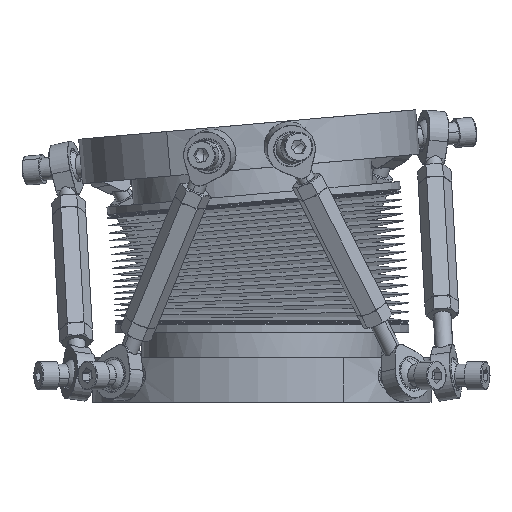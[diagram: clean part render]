
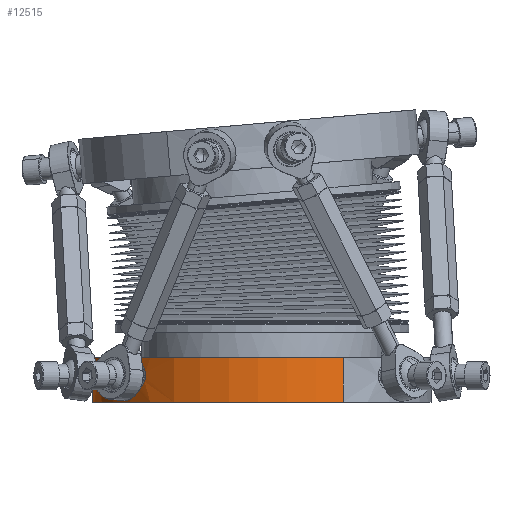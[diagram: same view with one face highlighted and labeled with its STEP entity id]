
A CAD part, left-side view. The second image highlights one B-rep face of the part: STEP entity #12515.
In plain terms, the highlighted cylindrical face has radius 76 mm (diameter 152 mm), a partial arc.
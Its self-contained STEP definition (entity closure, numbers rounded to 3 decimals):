
#10743=AXIS2_PLACEMENT_3D('Circle Axis2P3D',#10741,#10742,$) ;
#11966=AXIS2_PLACEMENT_3D('Circle Axis2P3D',#11964,#11965,$) ;
#12187=AXIS2_PLACEMENT_3D('Cylinder Axis2P3D',#12184,#12185,#12186) ;
#10736=CARTESIAN_POINT('Vertex',(-66.696,-36.436,20.)) ;
#10738=CARTESIAN_POINT('Vertex',(66.696,36.436,20.)) ;
#10741=CARTESIAN_POINT('Axis2P3D Location',(0.,0.,20.)) ;
#11964=CARTESIAN_POINT('Axis2P3D Location',(0.,0.,0.)) ;
#11968=CARTESIAN_POINT('Vertex',(66.696,36.436,0.)) ;
#11970=CARTESIAN_POINT('Vertex',(-66.696,-36.436,0.)) ;
#12184=CARTESIAN_POINT('Axis2P3D Location',(0.,0.,10.)) ;
#12189=CARTESIAN_POINT('Line Origine',(-66.696,-36.436,10.)) ;
#12194=CARTESIAN_POINT('Line Origine',(66.696,36.436,10.)) ;
#12432=CARTESIAN_POINT('Control Point',(-52.955,54.514,17.265)) ;
#12433=CARTESIAN_POINT('Control Point',(-53.36,54.12,16.957)) ;
#12434=CARTESIAN_POINT('Control Point',(-53.732,53.752,16.574)) ;
#12435=CARTESIAN_POINT('Control Point',(-54.062,53.419,16.122)) ;
#12436=CARTESIAN_POINT('Control Point',(-54.905,52.557,14.598)) ;
#12437=CARTESIAN_POINT('Control Point',(-55.274,52.16,12.678)) ;
#12438=CARTESIAN_POINT('Control Point',(-55.275,52.16,11.329)) ;
#12439=CARTESIAN_POINT('Control Point',(-54.907,52.555,9.409)) ;
#12440=CARTESIAN_POINT('Control Point',(-54.065,53.416,7.883)) ;
#12441=CARTESIAN_POINT('Control Point',(-53.736,53.748,7.431)) ;
#12442=CARTESIAN_POINT('Control Point',(-52.67,54.804,6.329)) ;
#12443=CARTESIAN_POINT('Control Point',(-51.331,56.066,5.847)) ;
#12444=CARTESIAN_POINT('Control Point',(-50.398,56.906,5.846)) ;
#12445=CARTESIAN_POINT('Control Point',(-49.49,57.688,6.159)) ;
#12446=CARTESIAN_POINT('Control Point',(-48.68,58.363,6.735)) ;
#12447=CARTESIAN_POINT('Vertex',(-52.955,54.514,17.265)) ;
#12449=CARTESIAN_POINT('Vertex',(-48.68,58.363,6.735)) ;
#12453=CARTESIAN_POINT('Control Point',(-48.68,58.363,6.735)) ;
#12454=CARTESIAN_POINT('Control Point',(-48.246,58.725,7.043)) ;
#12455=CARTESIAN_POINT('Control Point',(-47.841,59.056,7.426)) ;
#12456=CARTESIAN_POINT('Control Point',(-47.475,59.349,7.878)) ;
#12457=CARTESIAN_POINT('Control Point',(-46.53,60.098,9.402)) ;
#12458=CARTESIAN_POINT('Control Point',(-46.097,60.424,11.322)) ;
#12459=CARTESIAN_POINT('Control Point',(-46.096,60.424,12.671)) ;
#12460=CARTESIAN_POINT('Control Point',(-46.527,60.1,14.591)) ;
#12461=CARTESIAN_POINT('Control Point',(-47.472,59.352,16.117)) ;
#12462=CARTESIAN_POINT('Control Point',(-47.837,59.059,16.569)) ;
#12463=CARTESIAN_POINT('Control Point',(-48.998,58.11,17.671)) ;
#12464=CARTESIAN_POINT('Control Point',(-50.393,56.911,18.153)) ;
#12465=CARTESIAN_POINT('Control Point',(-51.326,56.071,18.154)) ;
#12466=CARTESIAN_POINT('Control Point',(-52.199,55.249,17.841)) ;
#12467=CARTESIAN_POINT('Control Point',(-52.955,54.514,17.265)) ;
#12474=CARTESIAN_POINT('Control Point',(-26.204,71.34,17.265)) ;
#12475=CARTESIAN_POINT('Control Point',(-26.734,71.145,16.957)) ;
#12476=CARTESIAN_POINT('Control Point',(-27.224,70.96,16.574)) ;
#12477=CARTESIAN_POINT('Control Point',(-27.66,70.79,16.122)) ;
#12478=CARTESIAN_POINT('Control Point',(-28.781,70.345,14.598)) ;
#12479=CARTESIAN_POINT('Control Point',(-29.28,70.133,12.678)) ;
#12480=CARTESIAN_POINT('Control Point',(-29.281,70.133,11.329)) ;
#12481=CARTESIAN_POINT('Control Point',(-28.784,70.344,9.409)) ;
#12482=CARTESIAN_POINT('Control Point',(-27.665,70.788,7.883)) ;
#12483=CARTESIAN_POINT('Control Point',(-27.229,70.958,7.431)) ;
#12484=CARTESIAN_POINT('Control Point',(-25.826,71.489,6.329)) ;
#12485=CARTESIAN_POINT('Control Point',(-24.09,72.097,5.847)) ;
#12486=CARTESIAN_POINT('Control Point',(-22.896,72.485,5.846)) ;
#12487=CARTESIAN_POINT('Control Point',(-21.747,72.83,6.159)) ;
#12488=CARTESIAN_POINT('Control Point',(-20.733,73.117,6.735)) ;
#12489=CARTESIAN_POINT('Vertex',(-26.204,71.34,17.265)) ;
#12491=CARTESIAN_POINT('Vertex',(-20.733,73.117,6.735)) ;
#12495=CARTESIAN_POINT('Control Point',(-20.733,73.117,6.735)) ;
#12496=CARTESIAN_POINT('Control Point',(-20.19,73.271,7.043)) ;
#12497=CARTESIAN_POINT('Control Point',(-19.685,73.409,7.426)) ;
#12498=CARTESIAN_POINT('Control Point',(-19.231,73.528,7.878)) ;
#12499=CARTESIAN_POINT('Control Point',(-18.063,73.827,9.402)) ;
#12500=CARTESIAN_POINT('Control Point',(-17.535,73.949,11.322)) ;
#12501=CARTESIAN_POINT('Control Point',(-17.534,73.949,12.671)) ;
#12502=CARTESIAN_POINT('Control Point',(-18.06,73.828,14.591)) ;
#12503=CARTESIAN_POINT('Control Point',(-19.227,73.53,16.117)) ;
#12504=CARTESIAN_POINT('Control Point',(-19.68,73.411,16.569)) ;
#12505=CARTESIAN_POINT('Control Point',(-21.127,73.016,17.671)) ;
#12506=CARTESIAN_POINT('Control Point',(-22.889,72.487,18.153)) ;
#12507=CARTESIAN_POINT('Control Point',(-24.083,72.099,18.154)) ;
#12508=CARTESIAN_POINT('Control Point',(-25.214,71.703,17.841)) ;
#12509=CARTESIAN_POINT('Control Point',(-26.204,71.34,17.265)) ;
#10742=DIRECTION('Axis2P3D Direction',(0.,0.,1.)) ;
#11965=DIRECTION('Axis2P3D Direction',(0.,0.,1.)) ;
#12185=DIRECTION('Axis2P3D Direction',(0.,0.,1.)) ;
#12186=DIRECTION('Axis2P3D XDirection',(0.878,0.479,0.)) ;
#12190=DIRECTION('Vector Direction',(0.,0.,1.)) ;
#12195=DIRECTION('Vector Direction',(0.,0.,1.)) ;
#12191=VECTOR('Line Direction',#12190,1.) ;
#12196=VECTOR('Line Direction',#12195,1.) ;
#12426=ORIENTED_EDGE('',*,*,#10745,.F.) ;
#12427=ORIENTED_EDGE('',*,*,#12198,.T.) ;
#12428=ORIENTED_EDGE('',*,*,#11972,.T.) ;
#12429=ORIENTED_EDGE('',*,*,#12193,.F.) ;
#12470=ORIENTED_EDGE('',*,*,#12451,.T.) ;
#12471=ORIENTED_EDGE('',*,*,#12468,.T.) ;
#12512=ORIENTED_EDGE('',*,*,#12493,.T.) ;
#12513=ORIENTED_EDGE('',*,*,#12510,.T.) ;
#12472=FACE_BOUND('',#12469,.T.) ;
#12514=FACE_BOUND('',#12511,.T.) ;
#12515=ADVANCED_FACE('PA100HEXBU_64723.1\\PA100HEXBU_BU.1',(#12430,#12472,#12514),#12188,.T.) ;
#12431=B_SPLINE_CURVE_WITH_KNOTS('',5,(#12432,#12433,#12434,#12435,#12436,#12437,#12438,#12439,#12440,#12441,#12442,#12443,#12444,#12445,#12446),.UNSPECIFIED.,.F.,.U.,(6,3,3,3,6),(0.,4.548,13.623,18.17,26.667),.UNSPECIFIED.) ;
#12452=B_SPLINE_CURVE_WITH_KNOTS('',5,(#12453,#12454,#12455,#12456,#12457,#12458,#12459,#12460,#12461,#12462,#12463,#12464,#12465,#12466,#12467),.UNSPECIFIED.,.F.,.U.,(6,3,3,3,6),(0.,4.548,13.623,18.17,26.667),.UNSPECIFIED.) ;
#12473=B_SPLINE_CURVE_WITH_KNOTS('',5,(#12474,#12475,#12476,#12477,#12478,#12479,#12480,#12481,#12482,#12483,#12484,#12485,#12486,#12487,#12488),.UNSPECIFIED.,.F.,.U.,(6,3,3,3,6),(0.,4.548,13.623,18.17,26.667),.UNSPECIFIED.) ;
#12494=B_SPLINE_CURVE_WITH_KNOTS('',5,(#12495,#12496,#12497,#12498,#12499,#12500,#12501,#12502,#12503,#12504,#12505,#12506,#12507,#12508,#12509),.UNSPECIFIED.,.F.,.U.,(6,3,3,3,6),(0.,4.548,13.623,18.17,26.667),.UNSPECIFIED.) ;
#10744=CIRCLE('generated circle',#10743,76.) ;
#11967=CIRCLE('generated circle',#11966,76.) ;
#12188=CYLINDRICAL_SURFACE('generated cylinder',#12187,76.) ;
#10745=EDGE_CURVE('',#10739,#10737,#10744,.T.) ;
#11972=EDGE_CURVE('',#11969,#11971,#11967,.T.) ;
#12193=EDGE_CURVE('',#10737,#11971,#12192,.F.) ;
#12198=EDGE_CURVE('',#10739,#11969,#12197,.F.) ;
#12451=EDGE_CURVE('',#12448,#12450,#12431,.T.) ;
#12468=EDGE_CURVE('',#12450,#12448,#12452,.T.) ;
#12493=EDGE_CURVE('',#12490,#12492,#12473,.T.) ;
#12510=EDGE_CURVE('',#12492,#12490,#12494,.T.) ;
#12425=EDGE_LOOP('',(#12426,#12427,#12428,#12429)) ;
#12469=EDGE_LOOP('',(#12470,#12471)) ;
#12511=EDGE_LOOP('',(#12512,#12513)) ;
#12430=FACE_OUTER_BOUND('',#12425,.T.) ;
#12192=LINE('Line',#12189,#12191) ;
#12197=LINE('Line',#12194,#12196) ;
#10737=VERTEX_POINT('',#10736) ;
#10739=VERTEX_POINT('',#10738) ;
#11969=VERTEX_POINT('',#11968) ;
#11971=VERTEX_POINT('',#11970) ;
#12448=VERTEX_POINT('',#12447) ;
#12450=VERTEX_POINT('',#12449) ;
#12490=VERTEX_POINT('',#12489) ;
#12492=VERTEX_POINT('',#12491) ;
